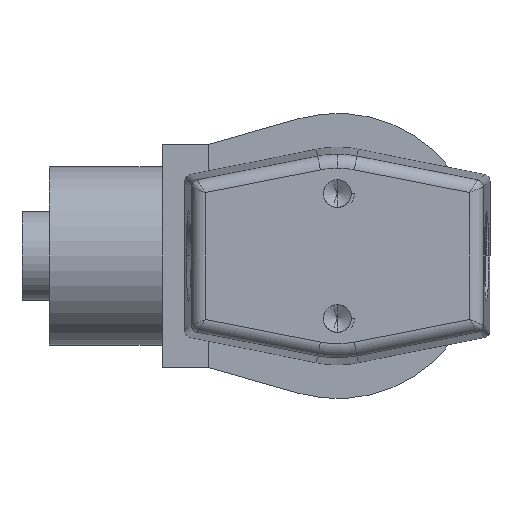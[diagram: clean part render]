
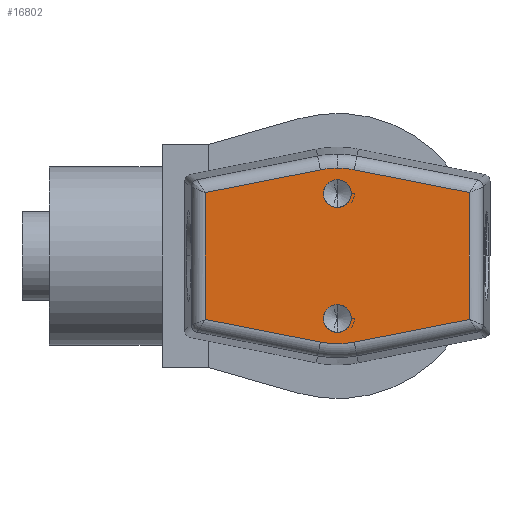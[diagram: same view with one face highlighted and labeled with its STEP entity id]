
A CAD part, front view. The second image highlights one B-rep face of the part: STEP entity #16802.
In plain terms, the highlighted planar face has unit normal (0, -1, 0).
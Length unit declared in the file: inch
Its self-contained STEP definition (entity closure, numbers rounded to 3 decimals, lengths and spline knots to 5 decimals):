
#186 = CIRCLE ( 'NONE', #13247, 0.07812 ) ;
#448 = VECTOR ( 'NONE', #15000, 39.37008 ) ;
#523 = EDGE_CURVE ( 'Defeatured_0_93+Defeatured_0_45+Defeatured_0_47+Defeatured_0_44', #12318, #17118, #10029, .T. ) ;
#739 = LINE ( 'NONE', #7863, #448 ) ;
#1383 = VERTEX_POINT ( 'NONE', #12832 ) ;
#1400 = CARTESIAN_POINT ( 'NONE',  ( 0., -0.82677, 0.35 ) ) ;
#1544 = LINE ( 'NONE', #8676, #20373 ) ;
#1868 = CIRCLE ( 'NONE', #19074, 0.49219 ) ;
#2165 = VERTEX_POINT ( 'NONE', #12624 ) ;
#2201 = CARTESIAN_POINT ( 'NONE',  ( 0.09521, -0.82677, 0.48289 ) ) ;
#2336 = EDGE_CURVE ( 'Defeatured_0_93+Defeatured_0_47+Defeatured_0_49+Defeatured_0_45', #15454, #12318, #4194, .T. ) ;
#2380 = DIRECTION ( 'NONE',  ( 0., 0., 1. ) ) ;
#2479 = DIRECTION ( 'NONE',  ( 0.981, 0., 0.193 ) ) ;
#2539 = ORIENTED_EDGE ( 'NONE', *, *, #17669, .F. ) ;
#2969 = ORIENTED_EDGE ( 'NONE', *, *, #8183, .F. ) ;
#3041 = DIRECTION ( 'NONE',  ( 0., 0., -1. ) ) ;
#3057 = ORIENTED_EDGE ( 'NONE', *, *, #523, .T. ) ;
#3162 = CARTESIAN_POINT ( 'NONE',  ( 0., -0.82677, 0.35 ) ) ;
#3185 = DIRECTION ( 'NONE',  ( 0., -1., 0. ) ) ;
#3278 = EDGE_CURVE ( 'Defeatured_0_218+Defeatured_0_93+Defeatured_0_214+Defeatured_0_217', #16830, #17501, #6732, .T. ) ;
#3503 = CARTESIAN_POINT ( 'NONE',  ( 0., -0.82677, 0. ) ) ;
#3658 = DIRECTION ( 'NONE',  ( 0., 0., -1. ) ) ;
#3764 = EDGE_CURVE ( 'Defeatured_0_93+Defeatured_0_51+Defeatured_0_50+Defeatured_0_49', #4373, #2165, #19436, .T. ) ;
#3921 = EDGE_CURVE ( 'Defeatured_0_93+Defeatured_0_51+Defeatured_0_50+Defeatured_0_49', #5922, #4373, #1868, .T. ) ;
#4127 = PLANE ( 'NONE',  #9571 ) ;
#4172 = AXIS2_PLACEMENT_3D ( 'NONE', #3162, #10296, #17432 ) ;
#4194 = LINE ( 'NONE', #11334, #10459 ) ;
#4370 = ORIENTED_EDGE ( 'NONE', *, *, #2336, .T. ) ;
#4373 = VERTEX_POINT ( 'NONE', #14199 ) ;
#4788 = DIRECTION ( 'NONE',  ( -0.981, 0., 0.193 ) ) ;
#4988 = ORIENTED_EDGE ( 'NONE', *, *, #11351, .T. ) ;
#5139 = CARTESIAN_POINT ( 'NONE',  ( -0.09521, -0.82677, -0.48289 ) ) ;
#5879 = FACE_BOUND ( 'NONE', #8367, .T. ) ;
#5922 = VERTEX_POINT ( 'NONE', #2201 ) ;
#6179 = AXIS2_PLACEMENT_3D ( 'NONE', #19208, #3185, #10321 ) ;
#6184 = VERTEX_POINT ( 'NONE', #6514 ) ;
#6354 = ORIENTED_EDGE ( 'NONE', *, *, #17199, .T. ) ;
#6419 = VERTEX_POINT ( 'NONE', #17963 ) ;
#6514 = CARTESIAN_POINT ( 'NONE',  ( 0.07812, -0.82677, 0.35 ) ) ;
#6653 = ORIENTED_EDGE ( 'NONE', *, *, #3764, .T. ) ;
#6732 = CIRCLE ( 'NONE', #19803, 0.07812 ) ;
#6903 = CARTESIAN_POINT ( 'NONE',  ( 0., -0.82677, 0. ) ) ;
#6908 = VERTEX_POINT ( 'NONE', #16558 ) ;
#6991 = CIRCLE ( 'NONE', #17082, 0.07812 ) ;
#7043 = CARTESIAN_POINT ( 'NONE',  ( 0., -0.82677, -0.35 ) ) ;
#7711 = EDGE_CURVE ( 'Defeatured_0_93+Defeatured_0_49+Defeatured_0_51+Defeatured_0_47', #2165, #15454, #739, .T. ) ;
#7827 = CARTESIAN_POINT ( 'NONE',  ( 0.09521, -0.82677, -0.48289 ) ) ;
#7863 = CARTESIAN_POINT ( 'NONE',  ( -0.80048, -0.82677, 0.34383 ) ) ;
#8089 = EDGE_CURVE ( 'Defeatured_0_218+Defeatured_0_93+Defeatured_0_214+Defeatured_0_217', #17501, #1383, #8270, .T. ) ;
#8183 = EDGE_CURVE ( 'Defeatured_0_226+Defeatured_0_93+Defeatured_0_222+Defeatured_0_225', #6908, #6184, #14256, .T. ) ;
#8270 = CIRCLE ( 'NONE', #21348, 0.07812 ) ;
#8293 = CARTESIAN_POINT ( 'NONE',  ( -0.74022, -0.82677, -0.35571 ) ) ;
#8367 = EDGE_LOOP ( 'NONE', ( #12186, #2969, #2539 ) ) ;
#8424 = CARTESIAN_POINT ( 'NONE',  ( 0., -0.82677, 0. ) ) ;
#8529 = DIRECTION ( 'NONE',  ( 0., -1., 0. ) ) ;
#8676 = CARTESIAN_POINT ( 'NONE',  ( 0.74022, -0.82677, 0.41714 ) ) ;
#8805 = CIRCLE ( 'NONE', #18897, 0.49219 ) ;
#9571 = AXIS2_PLACEMENT_3D ( 'NONE', #11265, #18406, #2380 ) ;
#9809 = EDGE_CURVE ( 'Defeatured_0_93+Defeatured_0_46+Defeatured_0_44+Defeatured_0_48', #15963, #13153, #11366, .T. ) ;
#10029 = LINE ( 'NONE', #11184, #17622 ) ;
#10296 = DIRECTION ( 'NONE',  ( 0., -1., 0. ) ) ;
#10321 = DIRECTION ( 'NONE',  ( 0., 0., -1. ) ) ;
#10459 = VECTOR ( 'NONE', #18473, 39.37008 ) ;
#10544 = ORIENTED_EDGE ( 'NONE', *, *, #9809, .T. ) ;
#10643 = DIRECTION ( 'NONE',  ( 0., -1., 0. ) ) ;
#11184 = CARTESIAN_POINT ( 'NONE',  ( -0.09521, -0.82677, -0.48289 ) ) ;
#11265 = CARTESIAN_POINT ( 'NONE',  ( 0., -0.82677, 0. ) ) ;
#11334 = CARTESIAN_POINT ( 'NONE',  ( -0.74022, -0.82677, -0.41714 ) ) ;
#11351 = EDGE_CURVE ( 'Defeatured_0_93+Defeatured_0_50+Defeatured_0_48+Defeatured_0_51', #6419, #5922, #13678, .T. ) ;
#11366 = LINE ( 'NONE', #18505, #16142 ) ;
#11941 = CARTESIAN_POINT ( 'NONE',  ( 0., -0.82677, -0.35 ) ) ;
#12063 = VECTOR ( 'NONE', #4788, 39.37008 ) ;
#12157 = VERTEX_POINT ( 'NONE', #14307 ) ;
#12186 = ORIENTED_EDGE ( 'NONE', *, *, #21102, .F. ) ;
#12318 = VERTEX_POINT ( 'NONE', #8293 ) ;
#12546 = CARTESIAN_POINT ( 'NONE',  ( 0., -0.82677, -0.35 ) ) ;
#12624 = CARTESIAN_POINT ( 'NONE',  ( -0.09521, -0.82677, 0.48289 ) ) ;
#12832 = CARTESIAN_POINT ( 'NONE',  ( 0., -0.82677, -0.42812 ) ) ;
#13023 = FACE_BOUND ( 'NONE', #21142, .T. ) ;
#13133 = CARTESIAN_POINT ( 'NONE',  ( 0.07812, -0.82677, -0.35 ) ) ;
#13153 = VERTEX_POINT ( 'NONE', #21468 ) ;
#13191 = CARTESIAN_POINT ( 'NONE',  ( 0., -0.82677, -0.27188 ) ) ;
#13247 = AXIS2_PLACEMENT_3D ( 'NONE', #1400, #8529, #15664 ) ;
#13678 = LINE ( 'NONE', #20810, #12063 ) ;
#14031 = DIRECTION ( 'NONE',  ( 0., -1., 0. ) ) ;
#14164 = DIRECTION ( 'NONE',  ( 0., -1., 0. ) ) ;
#14199 = CARTESIAN_POINT ( 'NONE',  ( 0., -0.82677, 0.49219 ) ) ;
#14256 = CIRCLE ( 'NONE', #4172, 0.07812 ) ;
#14307 = CARTESIAN_POINT ( 'NONE',  ( 0., -0.82677, 0.42812 ) ) ;
#14957 = ORIENTED_EDGE ( 'NONE', *, *, #8089, .F. ) ;
#15000 = DIRECTION ( 'NONE',  ( -0.981, 0., -0.193 ) ) ;
#15373 = EDGE_CURVE ( 'Defeatured_0_218+Defeatured_0_93+Defeatured_0_214+Defeatured_0_217', #1383, #16830, #6991, .T. ) ;
#15454 = VERTEX_POINT ( 'NONE', #16277 ) ;
#15566 = DIRECTION ( 'NONE',  ( 0., -1., 0. ) ) ;
#15664 = DIRECTION ( 'NONE',  ( 0., 0., -1. ) ) ;
#15711 = ORIENTED_EDGE ( 'NONE', *, *, #3278, .F. ) ;
#15812 = DIRECTION ( 'NONE',  ( 0., 0., 1. ) ) ;
#15963 = VERTEX_POINT ( 'NONE', #7827 ) ;
#16142 = VECTOR ( 'NONE', #2479, 39.37008 ) ;
#16277 = CARTESIAN_POINT ( 'NONE',  ( -0.74022, -0.82677, 0.35571 ) ) ;
#16558 = CARTESIAN_POINT ( 'NONE',  ( 0., -0.82677, 0.27188 ) ) ;
#16802 = ADVANCED_FACE ( 'Defeatured_0_93', ( #5879, #13023, #20151 ), #4127, .F. ) ;
#16830 = VERTEX_POINT ( 'NONE', #13133 ) ;
#17082 = AXIS2_PLACEMENT_3D ( 'NONE', #12546, #19677, #3658 ) ;
#17118 = VERTEX_POINT ( 'NONE', #5139 ) ;
#17199 = EDGE_CURVE ( 'Defeatured_0_93+Defeatured_0_44+Defeatured_0_45+Defeatured_0_46', #17118, #15963, #8805, .T. ) ;
#17352 = ORIENTED_EDGE ( 'NONE', *, *, #17725, .T. ) ;
#17432 = DIRECTION ( 'NONE',  ( 0., 0., -1. ) ) ;
#17501 = VERTEX_POINT ( 'NONE', #13191 ) ;
#17622 = VECTOR ( 'NONE', #18318, 39.37008 ) ;
#17669 = EDGE_CURVE ( 'Defeatured_0_226+Defeatured_0_93+Defeatured_0_222+Defeatured_0_225', #12157, #6908, #19265, .T. ) ;
#17725 = EDGE_CURVE ( 'Defeatured_0_93+Defeatured_0_48+Defeatured_0_46+Defeatured_0_50', #13153, #6419, #1544, .T. ) ;
#17777 = DIRECTION ( 'NONE',  ( 0., 0., 1. ) ) ;
#17963 = CARTESIAN_POINT ( 'NONE',  ( 0.74022, -0.82677, 0.35571 ) ) ;
#18318 = DIRECTION ( 'NONE',  ( 0.981, 0., -0.193 ) ) ;
#18406 = DIRECTION ( 'NONE',  ( 0., 1., 0. ) ) ;
#18473 = DIRECTION ( 'NONE',  ( 0., 0., -1. ) ) ;
#18505 = CARTESIAN_POINT ( 'NONE',  ( 0.80048, -0.82677, -0.34383 ) ) ;
#18707 = ORIENTED_EDGE ( 'NONE', *, *, #15373, .F. ) ;
#18897 = AXIS2_PLACEMENT_3D ( 'NONE', #3503, #10643, #17777 ) ;
#19065 = DIRECTION ( 'NONE',  ( 0., -1., 0. ) ) ;
#19074 = AXIS2_PLACEMENT_3D ( 'NONE', #6903, #14031, #21162 ) ;
#19170 = ORIENTED_EDGE ( 'NONE', *, *, #7711, .T. ) ;
#19208 = CARTESIAN_POINT ( 'NONE',  ( 0., -0.82677, 0.35 ) ) ;
#19265 = CIRCLE ( 'NONE', #6179, 0.07812 ) ;
#19436 = CIRCLE ( 'NONE', #22415, 0.49219 ) ;
#19677 = DIRECTION ( 'NONE',  ( 0., -1., 0. ) ) ;
#19803 = AXIS2_PLACEMENT_3D ( 'NONE', #7043, #14164, #21297 ) ;
#20151 = FACE_OUTER_BOUND ( 'NONE', #21372, .T. ) ;
#20373 = VECTOR ( 'NONE', #15812, 39.37008 ) ;
#20810 = CARTESIAN_POINT ( 'NONE',  ( 0.09521, -0.82677, 0.48289 ) ) ;
#21102 = EDGE_CURVE ( 'Defeatured_0_226+Defeatured_0_93+Defeatured_0_222+Defeatured_0_225', #6184, #12157, #186, .T. ) ;
#21142 = EDGE_LOOP ( 'NONE', ( #15711, #18707, #14957 ) ) ;
#21162 = DIRECTION ( 'NONE',  ( 0., 0., 1. ) ) ;
#21297 = DIRECTION ( 'NONE',  ( 0., 0., -1. ) ) ;
#21348 = AXIS2_PLACEMENT_3D ( 'NONE', #11941, #19065, #3041 ) ;
#21372 = EDGE_LOOP ( 'NONE', ( #4988, #22109, #6653, #19170, #4370, #3057, #6354, #10544, #17352 ) ) ;
#21468 = CARTESIAN_POINT ( 'NONE',  ( 0.74022, -0.82677, -0.35571 ) ) ;
#22109 = ORIENTED_EDGE ( 'NONE', *, *, #3921, .T. ) ;
#22415 = AXIS2_PLACEMENT_3D ( 'NONE', #8424, #15566, #22682 ) ;
#22682 = DIRECTION ( 'NONE',  ( 0., 0., 1. ) ) ;
